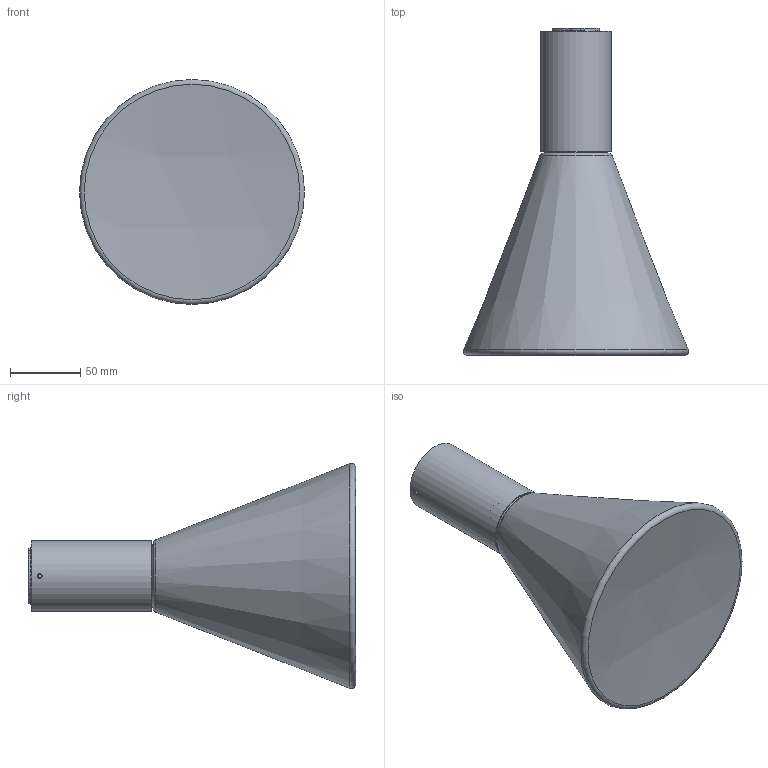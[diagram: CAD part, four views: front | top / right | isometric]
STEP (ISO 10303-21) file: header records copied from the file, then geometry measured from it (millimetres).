
FILE_DESCRIPTION(/* description */ (''),/* implementation_level */ '2;1');
FILE_NAME(/* name */ 'S:\UFFICIO TECNICO 2019\PRODOTTI ROTALIANA\SOUVLAKI\CONFIGURATORE\FILES X CONFIGURATORE\ipt INVENTOR\1SVH1002.stp',/* time_stamp */ '2024-03-13T17:52:12+01:00',/* author */ ('mtesta'),/* organization */ (''),/* preprocessor_version */ 'ST-DEVELOPER v18.1',/* originating_system */ 'Autodesk Inventor 2021',/* authorisation */ '');
FILE_SCHEMA (('AUTOMOTIVE_DESIGN { 1 0 10303 214 3 1 1 }'));
Length unit declared in the file: millimetre
Products named in the file (1): 1SVH1002
Bounding box: 160 x 232.65 x 160 mm (x, y, z)
Volume: 169905.5 mm3; surface area: 173803.1 mm2
Topology: 3 solids, 3 shells, 359 faces, 883 edges, 534 vertices
Faces by surface type: torus 107, bspline 71, plane 65, cylinder 57, cone 55, sphere 4
Full cylindrical faces by diameter (mm): 2.459 x2, 3.242 x1, 3.25 x2, 38.4 x1, 42 x2, 46.5 x1, 48 x1, 48.2 x2, 50 x1
Entity records: 13365 total; most frequent: CARTESIAN_POINT 4625, DIRECTION 1774, ORIENTED_EDGE 1750, EDGE_CURVE 875, AXIS2_PLACEMENT_3D 787, VERTEX_POINT 535, CIRCLE 498, EDGE_LOOP 392
